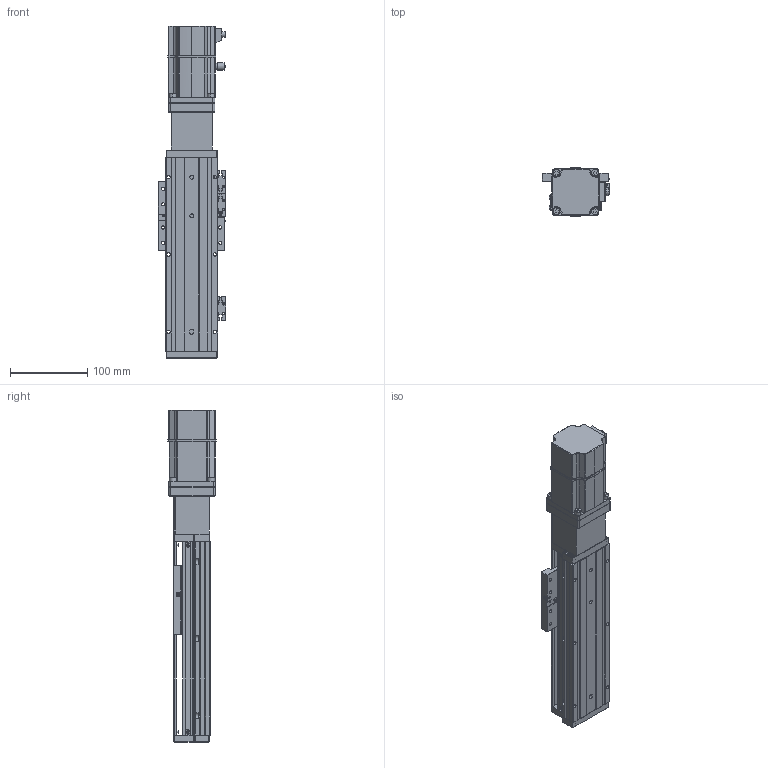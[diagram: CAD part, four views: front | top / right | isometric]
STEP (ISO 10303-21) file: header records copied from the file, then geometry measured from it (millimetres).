
FILE_DESCRIPTION (( 'STEP AP203' ), '1' );
FILE_NAME ('KTHAL60-100-BC-M20-C4L.step', '2022-12-16T01:57:20', ( '微软用户' ), ( '微软中国' ), 'SwSTEP 2.0', 'SolidWorks 2020', '' );
FILE_SCHEMA (( 'CONFIG_CONTROL_DESIGN' ));
Length unit declared in the file: millimetre
Products named in the file (18): KTHLA60-002; CTHA60-013; CTHA60-021; KTHA60-004; CTHA60-006-3_M20B; GBT 70.1-M4×16; KTHA60-005; _X2_4E0983F1_X0_200W_1; GBT77-2000M3-3; GB¨uT 70.2-M3¡Á5_M3¡Á6; KTHAL60-100-BC-M20-C4L; GBT 70.1-M3℅6; GBT 70.3-M3℅6; CTHA60-016; EE_SX911P_R; KTHA60-001_250; CTHA60-027; CTHA60-017
Assembly tree (48 placements, depth 2):
  KTHAL60-100-BC-M20-C4L
    KTHA60-001_250
    KTHLA60-002
    KTHA60-004
    KTHA60-005
    GB¨uT 70.2-M3¡Á5_M3¡Á6  x5
    GBT 70.3-M3℅6  x6
    EE_SX911P_R  x3
    CTHA60-017  x3
    CTHA60-021  x2
    GBT 70.1-M4×16  x8
    GBT77-2000M3-3  x6
    GBT 70.1-M3℅6  x6
    CTHA60-016
    CTHA60-027
    CTHA60-013
    CTHA60-006-3_M20B
    _X2_4E0983F1_X0_200W_1
Bounding box: 87.82 x 62.42 x 429.7 mm (x, y, z)
Volume: 1014553.6 mm3; surface area: 230068.5 mm2
Topology: 51 solids, 51 shells, 2226 faces, 5243 edges, 3205 vertices
Faces by surface type: plane 1201, cylinder 579, cone 285, torus 78, bspline 69, sphere 14
Entity records: 39189 total; most frequent: CARTESIAN_POINT 7606, DIRECTION 6128, ORIENTED_EDGE 5882, EDGE_CURVE 2941, AXIS2_PLACEMENT_3D 2119, VECTOR 1890, LINE 1890, VERTEX_POINT 1827
